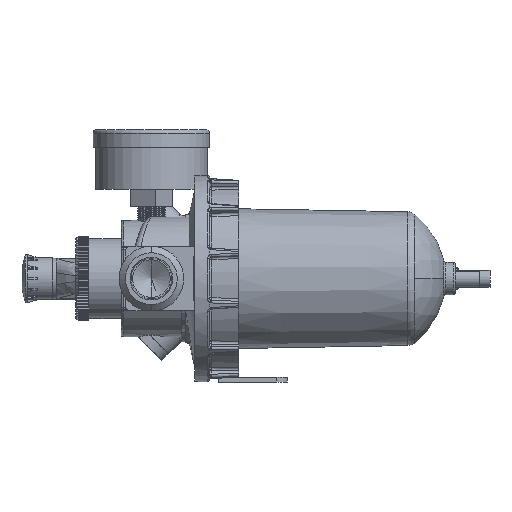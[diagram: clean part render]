
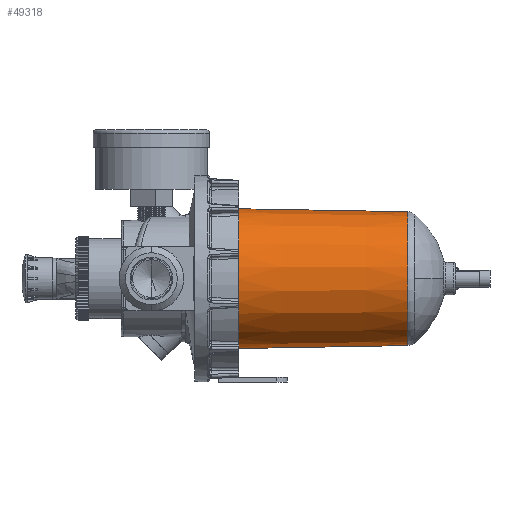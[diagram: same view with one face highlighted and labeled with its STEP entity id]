
A CAD part, left-side view. The second image highlights one B-rep face of the part: STEP entity #49318.
In plain terms, the highlighted conical face has half-angle 1 degrees and reference radius 31 mm.
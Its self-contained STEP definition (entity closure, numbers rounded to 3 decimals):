
#1111 = ORIENTED_EDGE ( 'NONE', *, *, #44882, .F. ) ;
#2830 = CARTESIAN_POINT ( 'NONE',  ( 0., 1.608, -31.028 ) ) ;
#3759 = ORIENTED_EDGE ( 'NONE', *, *, #50301, .T. ) ;
#4124 = CARTESIAN_POINT ( 'NONE',  ( 0., 0., -31. ) ) ;
#4201 = DIRECTION ( 'NONE',  ( 0., 1., 0. ) ) ;
#5557 = CARTESIAN_POINT ( 'NONE',  ( 0., 80., -32.396 ) ) ;
#8731 = VECTOR ( 'NONE', #31294, 1000. ) ;
#9306 = LINE ( 'NONE', #64648, #68395 ) ;
#17414 = CARTESIAN_POINT ( 'NONE',  ( 0., 1.608, 31.028 ) ) ;
#21380 = EDGE_LOOP ( 'NONE', ( #33333, #45131, #3759, #1111 ) ) ;
#22021 = CIRCLE ( 'NONE', #63931, 31.028 ) ;
#22861 = CONICAL_SURFACE ( 'NONE', #41289, 31., 0.017 ) ;
#23662 = DIRECTION ( 'NONE',  ( 0., 1., 0. ) ) ;
#28184 = LINE ( 'NONE', #4124, #8731 ) ;
#31294 = DIRECTION ( 'NONE',  ( 0., 1., -0.017 ) ) ;
#32103 = VERTEX_POINT ( 'NONE', #58910 ) ;
#33333 = ORIENTED_EDGE ( 'NONE', *, *, #56813, .F. ) ;
#35123 = AXIS2_PLACEMENT_3D ( 'NONE', #40265, #35237, #56986 ) ;
#35237 = DIRECTION ( 'NONE',  ( 0., 1., 0. ) ) ;
#38877 = EDGE_CURVE ( 'NONE', #68795, #56568, #22021, .T. ) ;
#40265 = CARTESIAN_POINT ( 'NONE',  ( 0., 80., 0. ) ) ;
#41289 = AXIS2_PLACEMENT_3D ( 'NONE', #63457, #4201, #69323 ) ;
#44679 = DIRECTION ( 'NONE',  ( 0., 0., -1. ) ) ;
#44882 = EDGE_CURVE ( 'NONE', #53104, #32103, #67866, .T. ) ;
#44926 = FACE_OUTER_BOUND ( 'NONE', #21380, .T. ) ;
#45131 = ORIENTED_EDGE ( 'NONE', *, *, #38877, .T. ) ;
#49318 = ADVANCED_FACE ( 'NONE', ( #44926 ), #22861, .T. ) ;
#50301 = EDGE_CURVE ( 'NONE', #56568, #32103, #9306, .T. ) ;
#53104 = VERTEX_POINT ( 'NONE', #5557 ) ;
#56568 = VERTEX_POINT ( 'NONE', #17414 ) ;
#56813 = EDGE_CURVE ( 'NONE', #68795, #53104, #28184, .T. ) ;
#56986 = DIRECTION ( 'NONE',  ( 0., 0., 1. ) ) ;
#58910 = CARTESIAN_POINT ( 'NONE',  ( 0., 80., 32.396 ) ) ;
#63457 = CARTESIAN_POINT ( 'NONE',  ( 0., 0., 0. ) ) ;
#63931 = AXIS2_PLACEMENT_3D ( 'NONE', #66798, #23662, #44679 ) ;
#63941 = DIRECTION ( 'NONE',  ( 0., 1., 0.017 ) ) ;
#64648 = CARTESIAN_POINT ( 'NONE',  ( 0., 0., 31. ) ) ;
#66798 = CARTESIAN_POINT ( 'NONE',  ( 0., 1.608, 0. ) ) ;
#67866 = CIRCLE ( 'NONE', #35123, 32.396 ) ;
#68395 = VECTOR ( 'NONE', #63941, 1000. ) ;
#68795 = VERTEX_POINT ( 'NONE', #2830 ) ;
#69323 = DIRECTION ( 'NONE',  ( 0., 0., 1. ) ) ;
